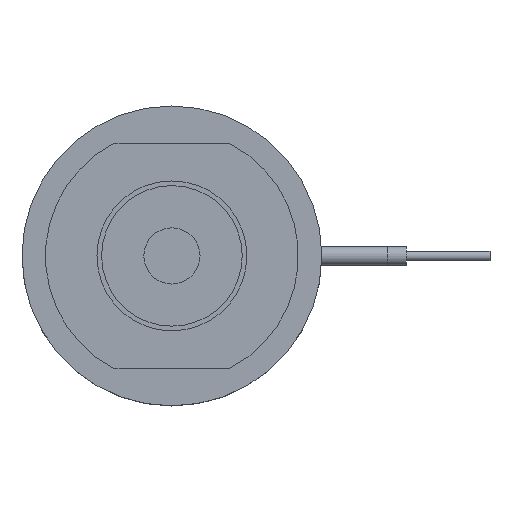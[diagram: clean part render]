
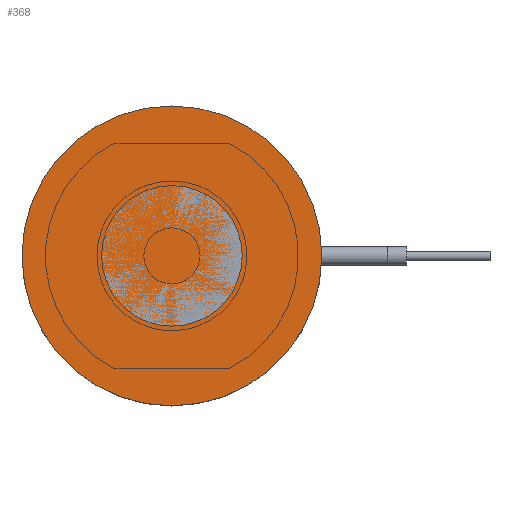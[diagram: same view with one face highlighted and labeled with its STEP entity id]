
A CAD part, top view. The second image highlights one B-rep face of the part: STEP entity #368.
In plain terms, the highlighted planar face has unit normal (0, 0, 1).
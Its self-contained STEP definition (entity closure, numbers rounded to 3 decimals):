
#220=PLANE('',#1293);
#276=FACE_OUTER_BOUND('',#613,.T.);
#368=ADVANCED_FACE('',(#276),#220,.F.);
#613=EDGE_LOOP('',(#841));
#841=ORIENTED_EDGE('',*,*,#1056,.F.);
#941=VERTEX_POINT('',#2065);
#1056=EDGE_CURVE('',#941,#941,#1134,.T.);
#1134=CIRCLE('',#1292,16.);
#1292=AXIS2_PLACEMENT_3D('',#2064,#1637,#1638);
#1293=AXIS2_PLACEMENT_3D('',#2066,#1639,#1640);
#1637=DIRECTION('',(0.,0.,-1.));
#1638=DIRECTION('',(-1.,0.,0.));
#1639=DIRECTION('',(0.,0.,-1.));
#1640=DIRECTION('',(-1.,0.,0.));
#2064=CARTESIAN_POINT('',(0.,0.,0.));
#2065=CARTESIAN_POINT('',(-16.,0.,0.));
#2066=CARTESIAN_POINT('',(0.,0.,0.));
